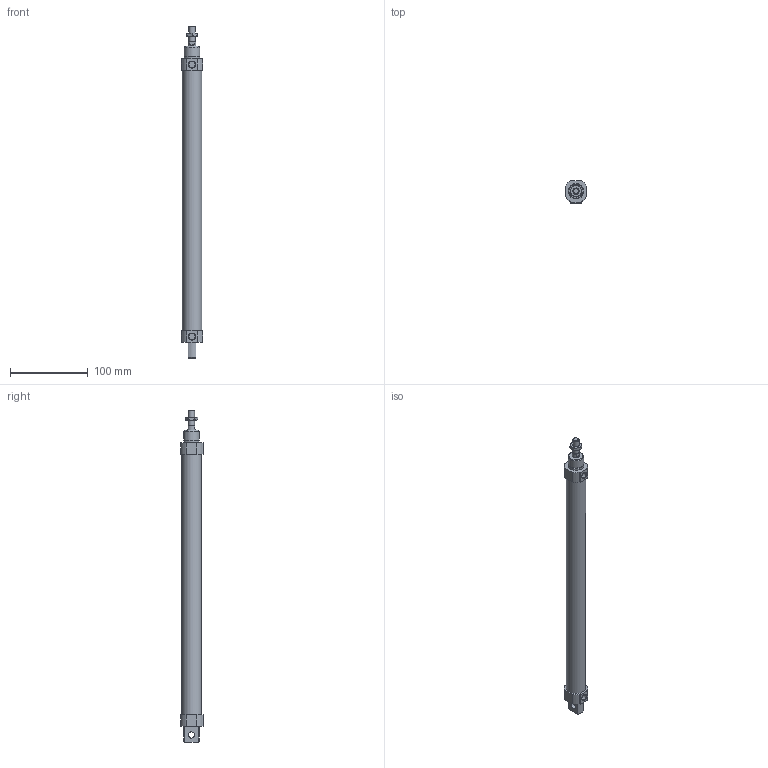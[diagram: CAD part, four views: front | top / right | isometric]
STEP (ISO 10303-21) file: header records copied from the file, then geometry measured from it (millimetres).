
FILE_DESCRIPTION((''),'2;1');
FILE_NAME('I:\3D電子目錄\氣缸\FDA\FDA\FDA\FDA20\FDA20x300.stp','2007-10-16T10:00:01',('66-2f-008'),(''),'Autodesk Inventor 11','Autodesk Inventor 11','');
FILE_SCHEMA(('AUTOMOTIVE_DESIGN { 1 0 10303 214 1 1 1 1 }'));
Length unit declared in the file: millimetre
Products named in the file (1): FDA20
Bounding box: 27 x 28.5 x 426 mm (x, y, z)
Volume: 193533.6 mm3; surface area: 34420.7 mm2
Topology: 1 solids, 1 shells, 77 faces, 178 edges, 112 vertices
Faces by surface type: plane 37, cone 20, cylinder 19, torus 1
Full cylindrical faces by diameter (mm): 8 x5, 10 x1, 20 x2, 25 x1
Entity records: 2081 total; most frequent: CARTESIAN_POINT 414, DIRECTION 348, ORIENTED_EDGE 324, EDGE_CURVE 162, AXIS2_PLACEMENT_3D 140, VERTEX_POINT 110, EDGE_LOOP 102, FACE_OUTER_BOUND 77
